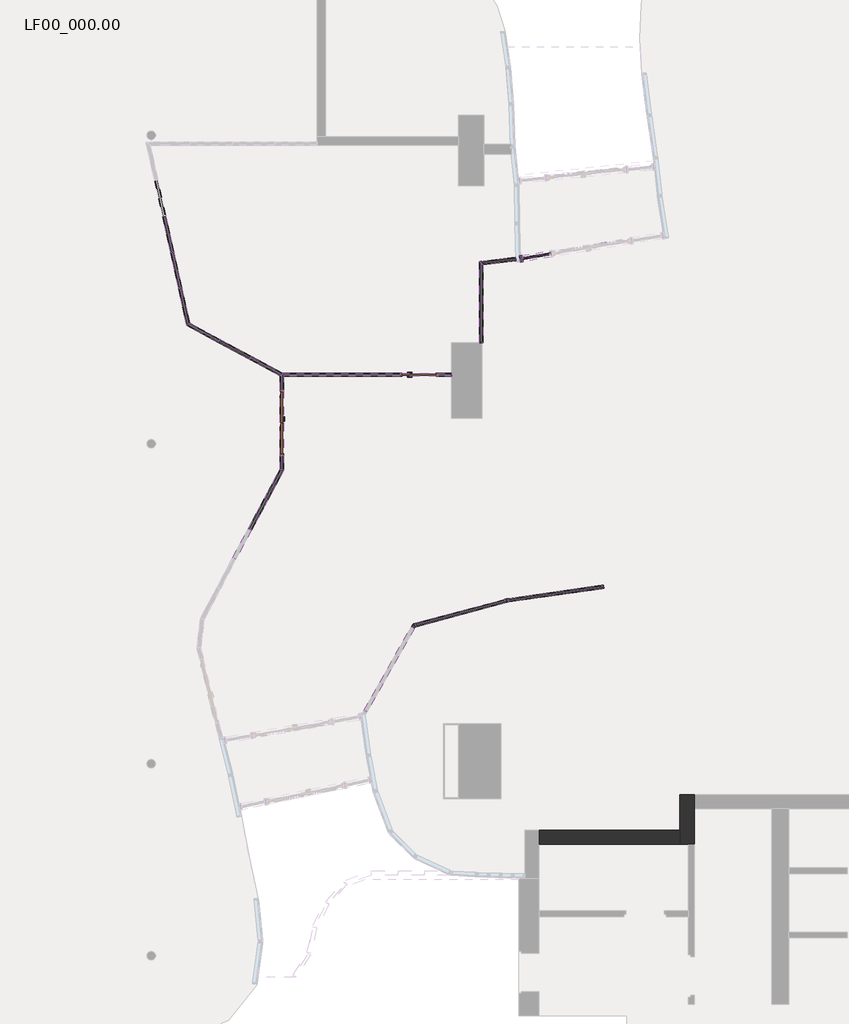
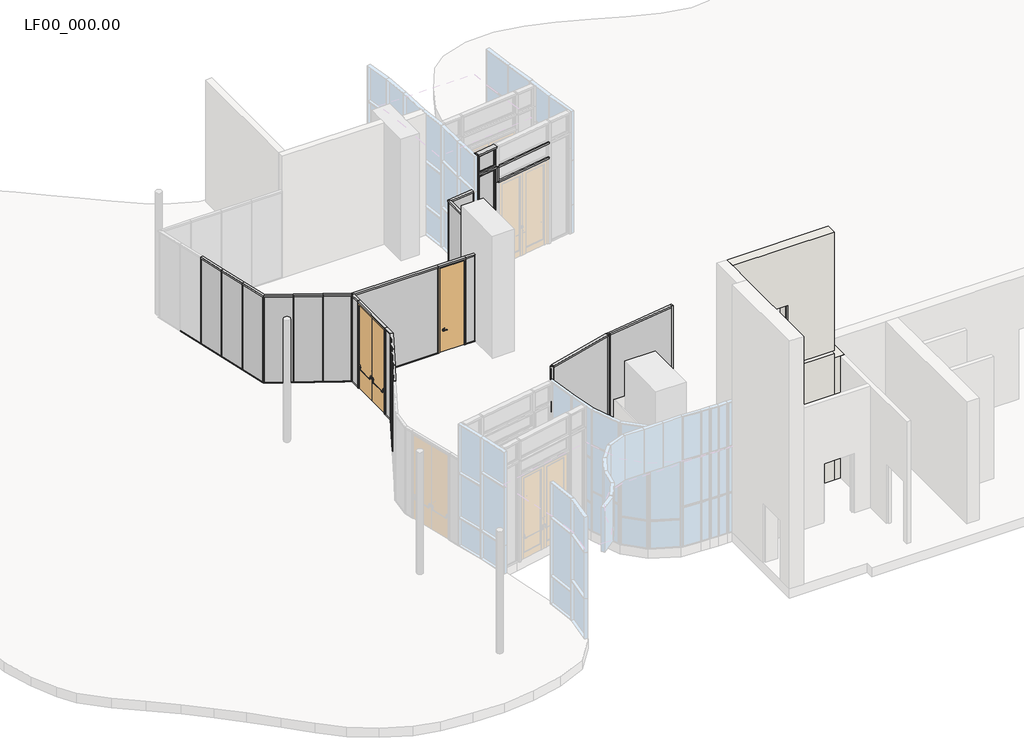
# One storey, part 3 of 8: 73 members, 18 plates, 2 doors, 2 walls.
"""IFC4 building model written with IfcOpenShell, lengths in millimetres."""

from ifc_helpers import new_model, si_unit, origin, place, context, project, spatial, faceted_brep, transform, mapped, element, save
from components import ve_090_8462b8ca, ve_154_32acc332, montante_rettangolare_ac_025x025_ae409ff8, montante_rettangolare_ac_025x025_25a4d1a1, montante_rettangolare_ac_025x025_28f09506, montante_rettangolare_ac_025x025_21ed5f5e, montante_rettangolare_ac_025x025_512be482, montante_rettangolare_ac_025x025_b97b00cb, montante_rettangolare_ac_025x025_81f427b6, montante_rettangolare_ac_080x010_f14e0e64, montante_rettangolare_ac_080x010_85614832, montante_rettangolare_ac_080x020_12e86903, montante_rettangolare_ac_080x020_a6ec7df7, montante_rettangolare_ac_080x020_8fa086c5, montante_rettangolare_ac_080x020_745d10ed, montante_rettangolare_ac_080x020_d0b7e222, montante_rettangolare_ac_080x020_5f120261, montante_rettangolare_ac_080x020_4c6ad7e7, montante_rettangolare_ac_080x020_a7b9e2be, montante_rettangolare_ac_080x020_05316a25, montante_rettangolare_ac_080x020_d9112aa1, montante_rettangolare_ac_080x020_15081c37, montante_rettangolare_ac_080x050_b03c8246, montante_rettangolare_ac_080x050_9ed485d2, montante_rettangolare_ac_080x050_85a4022c, montante_rettangolare_ac_080x050_10f1333b, montante_rettangolare_ac_080x050_9d1dc2e1, montante_rettangolare_ac_080x050_40be3790, montante_rettangolare_ac_080x050_a195ecd1, montante_rettangolare_ac_080x050_321416b7, montante_rettangolare_ac_080x050_0467c740, montante_rettangolare_ac_080x050_62b3c33c, montante_rettangolare_ac_080x050_1daf8e61, montante_rettangolare_ac_080x050_248bea0a, montante_rettangolare_ac_080x050_8d010b6c, montante_rettangolare_ac_080x050_8287f4ca, montante_rettangolare_ac_080x050_6629c8e8, montante_rettangolare_ac_080x050_642f358e, montante_rettangolare_ac_080x050_439e9399, montante_rettangolare_ac_080x050_106e0a45, montante_rettangolare_ac_080x050_b51b2937, al_005_92a386ba, ve3_036_db4ad411, ve3_036_47e47b8d, ve3_036_760cb13e, ve3_036_85d96793, ve3_036_0f583615, ve3_036_fc92c171, ve3_036_8ff04e8b, ve3_036_5b222622, ve3_036_d15efc4c, ve3_036_89044f45, ve3_036_f7bfa5f0, ve3_036_6c72086a, ve3_036_8a0f5401, ve_005_3c51ae4a

model = new_model("IFC4")

# Units and contexts
model_context = context("Model", 3, world=origin())
ifc_project = project(units=[si_unit("LENGTHUNIT", "METRE", prefix="MILLI")], contexts=[model_context])

# Site, building, storey
site = spatial("IfcSite", under=ifc_project)
building = spatial("IfcBuilding", under=site)
storey = spatial("IfcBuildingStorey", under=building, Name="LF00_000.00", Elevation=0.0)

# Doors
placement = place(None, origin())
ve_090_shape = ve_090_8462b8ca(model_context)
element("IfcDoor", 1, ObjectType="TRP_CP_ARC_PO_1B_PV : VE_090", at=placement, inside=storey, context=model_context, shape_type="MappedRepresentation", body=[
    mapped(ve_090_shape, transform((-87746.1459231, 11931.1366691, 0.0), x_axis=(-1.0, 0.0, 0.0), y_axis=(0.0, -1.0, 0.0), z_axis=(0.0, 0.0, 1.0))),
])
ve_154_shape = ve_154_32acc332(model_context)
element("IfcDoor", 2, ObjectType="TRP_CP_ARC_PO_2B_RE : VE_154", at=placement, inside=storey, context=model_context, shape_type="MappedRepresentation", body=[
    mapped(ve_154_shape, transform((-90961.1459231, 10796.1366691, 0.0), x_axis=(0.0, 1.0, 0.0), y_axis=(-1.0, 0.0, 0.0), z_axis=(0.0, 0.0, 1.0))),
])

# Members
montante_rettangolare_ac_025x025_shape = montante_rettangolare_ac_025x025_ae409ff8(model_context)
element("IfcMember", 3, ObjectType="Montante rettangolare : AC_025x025", at=placement, inside=storey, context=model_context, shape_type="MappedRepresentation", body=[
    mapped(montante_rettangolare_ac_025x025_shape, transform((-85375.4635346, 14647.4483094, 3500.0), x_axis=(-0.9868814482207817, -0.1614466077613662, 0.0), y_axis=(-0.1614466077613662, 0.9868814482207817, 0.0), z_axis=(0.0, 0.0, -1.0))),
])
montante_rettangolare_ac_025x025_2_shape = montante_rettangolare_ac_025x025_25a4d1a1(model_context)
element("IfcMember", 4, ObjectType="Montante rettangolare : AC_025x025", at=placement, inside=storey, context=model_context, shape_type="MappedRepresentation", body=[
    mapped(montante_rettangolare_ac_025x025_2_shape, transform((-84618.032023, 14771.3585809, 3500.0), x_axis=(0.0, 0.0, 1.0), y_axis=(-0.1614466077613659, 0.9868814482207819, 0.0), z_axis=(-0.9868814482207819, -0.1614466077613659, 0.0))),
])
montante_rettangolare_ac_025x025_3_shape = montante_rettangolare_ac_025x025_28f09506(model_context)
element("IfcMember", 5, ObjectType="Montante rettangolare : AC_025x025", at=placement, inside=storey, context=model_context, shape_type="MappedRepresentation", body=[
    mapped(montante_rettangolare_ac_025x025_3_shape, transform((-84618.032023, 14771.3585809, 2962.0), x_axis=(0.0, 0.0, 1.0), y_axis=(-0.1614466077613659, 0.9868814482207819, 0.0), z_axis=(-0.9868814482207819, -0.1614466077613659, 0.0))),
])
montante_rettangolare_ac_025x025_4_shape = montante_rettangolare_ac_025x025_21ed5f5e(model_context)
element("IfcMember", 6, ObjectType="Montante rettangolare : AC_025x025", at=placement, inside=storey, context=model_context, shape_type="MappedRepresentation", body=[
    mapped(montante_rettangolare_ac_025x025_4_shape, transform((-85375.4635346, 14647.4483094, 2962.0), x_axis=(-0.9868814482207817, -0.1614466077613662, 0.0), y_axis=(-0.1614466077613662, 0.9868814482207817, 0.0), z_axis=(0.0, 0.0, -1.0))),
])
montante_rettangolare_ac_025x025_5_shape = montante_rettangolare_ac_025x025_512be482(model_context)
element("IfcMember", 7, ObjectType="Montante rettangolare : AC_025x025", at=placement, inside=storey, context=model_context, shape_type="MappedRepresentation", body=[
    mapped(montante_rettangolare_ac_025x025_5_shape, transform((-84642.7040592, 14767.3224157, 2962.0), x_axis=(-0.9868814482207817, -0.1614466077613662, 0.0), y_axis=(-0.1614466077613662, 0.9868814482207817, 0.0), z_axis=(0.0, 0.0, -1.0))),
])
montante_rettangolare_ac_025x025_6_shape = montante_rettangolare_ac_025x025_b97b00cb(model_context)
element("IfcMember", 8, ObjectType="Montante rettangolare : AC_025x025", at=placement, inside=storey, context=model_context, shape_type="MappedRepresentation", body=[
    mapped(montante_rettangolare_ac_025x025_6_shape, transform((-85375.4635346, 14647.4483094, 0.0), x_axis=(-0.9868814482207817, -0.1614466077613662, 0.0), y_axis=(-0.1614466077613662, 0.9868814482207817, 0.0), z_axis=(0.0, 0.0, -1.0))),
])
montante_rettangolare_ac_025x025_7_shape = montante_rettangolare_ac_025x025_81f427b6(model_context)
element("IfcMember", 9, ObjectType="Montante rettangolare : AC_025x025", at=placement, inside=storey, context=model_context, shape_type="MappedRepresentation", body=[
    mapped(montante_rettangolare_ac_025x025_7_shape, transform((-85326.1194621, 14655.5206398, 3500.0), x_axis=(0.0, 0.0, 1.0), y_axis=(-0.16144660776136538, 0.9868814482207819, 0.0), z_axis=(-0.9868814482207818, -0.16144660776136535, 0.0))),
])
element("IfcMember", 10, ObjectType="Montante rettangolare : AC_025x025", at=placement, inside=storey, context=model_context, shape_type="MappedRepresentation", body=[
    mapped(montante_rettangolare_ac_025x025_7_shape, transform((-85326.1194621, 14655.5206398, 4199.970898), x_axis=(0.0, 0.0, 1.0), y_axis=(-0.16144660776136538, 0.9868814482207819, 0.0), z_axis=(-0.9868814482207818, -0.16144660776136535, 0.0))),
])
montante_rettangolare_ac_080x010_shape = montante_rettangolare_ac_080x010_f14e0e64(model_context)
element("IfcMember", 11, ObjectType="Montante rettangolare : AC_080x010", at=placement, inside=storey, context=model_context, shape_type="MappedRepresentation", body=[
    mapped(montante_rettangolare_ac_080x010_shape, transform((-91706.3991239, 8317.9397459, 20.0), x_axis=(0.47167924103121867, 0.8817702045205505, 0.0), y_axis=(0.8817702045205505, -0.47167924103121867, 0.0), z_axis=(0.0, 0.0, -1.0))),
])
element("IfcMember", 12, ObjectType="Montante rettangolare : AC_080x010", at=placement, inside=storey, context=model_context, shape_type="MappedRepresentation", body=[
    mapped(montante_rettangolare_ac_080x010_shape, transform((-91333.7725235, 9014.5382075, 20.0), x_axis=(0.47167924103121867, 0.8817702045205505, 0.0), y_axis=(0.8817702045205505, -0.47167924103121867, 0.0), z_axis=(0.0, 0.0, -1.0))),
])
element("IfcMember", 13, ObjectType="Montante rettangolare : AC_080x010", at=placement, inside=storey, context=model_context, shape_type="MappedRepresentation", body=[
    mapped(montante_rettangolare_ac_080x010_shape, transform((-90961.1459231, 10031.1366691, 20.0), x_axis=(0.0, 1.0, 0.0), y_axis=(1.0, 0.0, 0.0), z_axis=(0.0, 0.0, -1.0))),
])
element("IfcMember", 14, ObjectType="Montante rettangolare : AC_080x010", at=placement, inside=storey, context=model_context, shape_type="MappedRepresentation", body=[
    mapped(montante_rettangolare_ac_080x010_shape, transform((-90961.1459231, 11571.1366691, 20.0), x_axis=(0.0, 1.0, 0.0), y_axis=(1.0, 0.0, 0.0), z_axis=(0.0, 0.0, -1.0))),
])
element("IfcMember", 15, ObjectType="Montante rettangolare : AC_080x010", at=placement, inside=storey, context=model_context, shape_type="MappedRepresentation", body=[
    mapped(montante_rettangolare_ac_080x010_shape, transform((-88191.1459231, 11931.1366691, 20.0), x_axis=(1.0, 0.0, 0.0), y_axis=(0.0, -1.0, 0.0), z_axis=(0.0, 0.0, -1.0))),
])
element("IfcMember", 16, ObjectType="Montante rettangolare : AC_080x010", at=placement, inside=storey, context=model_context, shape_type="MappedRepresentation", body=[
    mapped(montante_rettangolare_ac_080x010_shape, transform((-87291.1459231, 11931.1366691, 20.0), x_axis=(1.0, 0.0, 0.0), y_axis=(0.0, -1.0, 0.0), z_axis=(0.0, 0.0, -1.0))),
])
element("IfcMember", 17, ObjectType="Montante rettangolare : AC_080x010", at=placement, inside=storey, context=model_context, shape_type="MappedRepresentation", body=[
    mapped(montante_rettangolare_ac_080x010_shape, transform((-92429.171309, 12722.8862451, 20.0), x_axis=(-0.8801519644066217, 0.47469202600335, 0.0), y_axis=(0.47469202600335, 0.8801519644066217, 0.0), z_axis=(0.0, 0.0, -1.0))),
])
element("IfcMember", 18, ObjectType="Montante rettangolare : AC_080x010", at=placement, inside=storey, context=model_context, shape_type="MappedRepresentation", body=[
    mapped(montante_rettangolare_ac_080x010_shape, transform((-91698.6451786, 12328.8918635, 20.0), x_axis=(-0.8801519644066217, 0.47469202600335, 0.0), y_axis=(0.47469202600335, 0.8801519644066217, 0.0), z_axis=(0.0, 0.0, -1.0))),
])
element("IfcMember", 19, ObjectType="Montante rettangolare : AC_080x010", at=placement, inside=storey, context=model_context, shape_type="MappedRepresentation", body=[
    mapped(montante_rettangolare_ac_080x010_shape, transform((-93347.7633033, 13962.2132422, 20.0), x_axis=(-0.217166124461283, 0.9761346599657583, 0.0), y_axis=(0.9761346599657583, 0.217166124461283, 0.0), z_axis=(0.0, 0.0, -1.0))),
])
element("IfcMember", 20, ObjectType="Montante rettangolare : AC_080x010", at=placement, inside=storey, context=model_context, shape_type="MappedRepresentation", body=[
    mapped(montante_rettangolare_ac_080x010_shape, transform((-93535.829167, 14807.5458578, 20.0), x_axis=(-0.217166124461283, 0.9761346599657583, 0.0), y_axis=(0.9761346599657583, 0.217166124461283, 0.0), z_axis=(0.0, 0.0, -1.0))),
])
element("IfcMember", 21, ObjectType="Montante rettangolare : AC_080x010", at=placement, inside=storey, context=model_context, shape_type="MappedRepresentation", body=[
    mapped(montante_rettangolare_ac_080x010_shape, transform((-93723.8950308, 15652.8784733, 20.0), x_axis=(-0.217166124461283, 0.9761346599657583, 0.0), y_axis=(0.9761346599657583, 0.217166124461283, 0.0), z_axis=(0.0, 0.0, -1.0))),
])
element("IfcMember", 22, ObjectType="Montante rettangolare : AC_080x010", at=placement, inside=storey, context=model_context, shape_type="MappedRepresentation", body=[
    mapped(montante_rettangolare_ac_080x010_shape, transform((-90961.1459231, 9711.1366691, 20.0), x_axis=(0.47167924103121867, 0.8817702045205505, 0.0), y_axis=(0.8817702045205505, -0.47167924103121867, 0.0), z_axis=(0.0, 0.0, -1.0))),
])
element("IfcMember", 23, ObjectType="Montante rettangolare : AC_080x010", at=placement, inside=storey, context=model_context, shape_type="MappedRepresentation", body=[
    mapped(montante_rettangolare_ac_080x010_shape, transform((-90961.1459231, 11931.1366691, 20.0), x_axis=(0.0, 1.0, 0.0), y_axis=(1.0, 0.0, 0.0), z_axis=(0.0, 0.0, -1.0))),
])
element("IfcMember", 24, ObjectType="Montante rettangolare : AC_080x010", at=placement, inside=storey, context=model_context, shape_type="MappedRepresentation", body=[
    mapped(montante_rettangolare_ac_080x010_shape, transform((-86991.1459231, 11931.1366691, 20.0), x_axis=(1.0, 0.0, 0.0), y_axis=(0.0, -1.0, 0.0), z_axis=(0.0, 0.0, -1.0))),
])
element("IfcMember", 25, ObjectType="Montante rettangolare : AC_080x010", at=placement, inside=storey, context=model_context, shape_type="MappedRepresentation", body=[
    mapped(montante_rettangolare_ac_080x010_shape, transform((-93159.6974395, 13116.8806267, 20.0), x_axis=(-0.8801519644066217, 0.47469202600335, 0.0), y_axis=(0.47469202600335, 0.8801519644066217, 0.0), z_axis=(0.0, 0.0, -1.0))),
])
element("IfcMember", 26, ObjectType="Montante rettangolare : AC_080x010", at=placement, inside=storey, context=model_context, shape_type="MappedRepresentation", body=[
    mapped(montante_rettangolare_ac_080x010_shape, transform((-86286.1459231, 12679.4443829, 20.0), x_axis=(0.0, -1.0, 0.0), y_axis=(-1.0, 0.0, 0.0), z_axis=(0.0, 0.0, -1.0))),
])
element("IfcMember", 27, ObjectType="Montante rettangolare : AC_080x010", at=placement, inside=storey, context=model_context, shape_type="MappedRepresentation", body=[
    mapped(montante_rettangolare_ac_080x010_shape, transform((-86286.1459231, 14549.4443829, 20.0), x_axis=(-0.9925461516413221, -0.12186934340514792, 0.0), y_axis=(-0.12186934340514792, 0.9925461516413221, 0.0), z_axis=(0.0, 0.0, -1.0))),
])
element("IfcMember", 28, ObjectType="Montante rettangolare : AC_080x010", at=placement, inside=storey, context=model_context, shape_type="MappedRepresentation", body=[
    mapped(montante_rettangolare_ac_080x010_shape, transform((-90961.1459231, 11931.1366691, 2950.0), x_axis=(-1.0, 0.0, 0.0), y_axis=(0.0, -1.0, 0.0), z_axis=(0.0, 0.0, 1.0))),
])
element("IfcMember", 29, ObjectType="Montante rettangolare : AC_080x010", at=placement, inside=storey, context=model_context, shape_type="MappedRepresentation", body=[
    mapped(montante_rettangolare_ac_080x010_shape, transform((-90961.1459231, 11931.1366691, 2950.0), x_axis=(0.8801519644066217, -0.47469202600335, 0.0), y_axis=(0.47469202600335, 0.8801519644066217, 0.0), z_axis=(0.0, 0.0, 1.0))),
])
element("IfcMember", 30, ObjectType="Montante rettangolare : AC_080x010", at=placement, inside=storey, context=model_context, shape_type="MappedRepresentation", body=[
    mapped(montante_rettangolare_ac_080x010_shape, transform((-93159.6974395, 13116.8806267, 2950.0), x_axis=(0.217166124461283, -0.9761346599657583, 0.0), y_axis=(0.9761346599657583, 0.217166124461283, 0.0), z_axis=(0.0, 0.0, 1.0))),
])
element("IfcMember", 31, ObjectType="Montante rettangolare : AC_080x010", at=placement, inside=storey, context=model_context, shape_type="MappedRepresentation", body=[
    mapped(montante_rettangolare_ac_080x010_shape, transform((-86286.1459231, 14549.4443829, 2950.0), x_axis=(0.0, 1.0, 0.0), y_axis=(-1.0, 0.0, 0.0), z_axis=(0.0, 0.0, 1.0))),
])
element("IfcMember", 32, ObjectType="Montante rettangolare : AC_080x010", at=placement, inside=storey, context=model_context, shape_type="MappedRepresentation", body=[
    mapped(montante_rettangolare_ac_080x010_shape, transform((-85475.5315143, 14648.9753172, 2950.0), x_axis=(0.9925461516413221, 0.12186934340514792, 0.0), y_axis=(-0.12186934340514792, 0.9925461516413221, 0.0), z_axis=(0.0, 0.0, 1.0))),
])
montante_rettangolare_ac_080x010_2_shape = montante_rettangolare_ac_080x010_85614832(model_context)
element("IfcMember", 33, ObjectType="Montante rettangolare : AC_080x010", at=placement, inside=storey, context=model_context, shape_type="MappedRepresentation", body=[
    mapped(montante_rettangolare_ac_080x010_2_shape, transform((-90961.1459231, 9711.1366691, 2950.0), x_axis=(0.0, -1.0, 0.0), y_axis=(1.0, 0.0, 0.0), z_axis=(0.0, 0.0, 1.0))),
])
montante_rettangolare_ac_080x020_shape = montante_rettangolare_ac_080x020_12e86903(model_context)
element("IfcMember", 34, ObjectType="Montante rettangolare : AC_080x020", at=placement, inside=storey, context=model_context, shape_type="MappedRepresentation", body=[
    mapped(montante_rettangolare_ac_080x020_shape, transform((-92429.171309, 12722.8862451, 0.0), x_axis=(0.0, 0.0, -1.0), y_axis=(0.4746920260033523, 0.8801519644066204, 0.0), z_axis=(0.8801519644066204, -0.4746920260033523, 0.0))),
])
montante_rettangolare_ac_080x020_2_shape = montante_rettangolare_ac_080x020_a6ec7df7(model_context)
element("IfcMember", 35, ObjectType="Montante rettangolare : AC_080x020", at=placement, inside=storey, context=model_context, shape_type="MappedRepresentation", body=[
    mapped(montante_rettangolare_ac_080x020_2_shape, transform((-85475.5315143, 14648.9753172, 0.0), x_axis=(0.0, 0.0, -1.0), y_axis=(-0.12186934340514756, 0.992546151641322, 0.0), z_axis=(0.992546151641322, 0.12186934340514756, 0.0))),
])
montante_rettangolare_ac_080x020_3_shape = montante_rettangolare_ac_080x020_8fa086c5(model_context)
element("IfcMember", 36, ObjectType="Montante rettangolare : AC_080x020", at=placement, inside=storey, context=model_context, shape_type="MappedRepresentation", body=[
    mapped(montante_rettangolare_ac_080x020_3_shape, transform((-91706.3991239, 8317.9397459, 0.0), x_axis=(0.0, 0.0, -1.0), y_axis=(0.8817702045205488, -0.47167924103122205, 0.0), z_axis=(-0.471679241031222, -0.8817702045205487, 0.0))),
])
montante_rettangolare_ac_080x020_4_shape = montante_rettangolare_ac_080x020_745d10ed(model_context)
element("IfcMember", 37, ObjectType="Montante rettangolare : AC_080x020", at=placement, inside=storey, context=model_context, shape_type="MappedRepresentation", body=[
    mapped(montante_rettangolare_ac_080x020_4_shape, transform((-90961.1459231, 11561.1366691, 0.0), x_axis=(0.0, 0.0, -1.0), y_axis=(1.0, 0.0, 0.0), z_axis=(0.0, -1.0, 0.0))),
])
element("IfcMember", 38, ObjectType="Montante rettangolare : AC_080x020", at=placement, inside=storey, context=model_context, shape_type="MappedRepresentation", body=[
    mapped(montante_rettangolare_ac_080x020_3_shape, transform((-91333.7725235, 9014.5382075, 0.0), x_axis=(0.0, 0.0, -1.0), y_axis=(0.8817702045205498, -0.47167924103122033, 0.0), z_axis=(-0.47167924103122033, -0.8817702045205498, 0.0))),
])
montante_rettangolare_ac_080x020_5_shape = montante_rettangolare_ac_080x020_d0b7e222(model_context)
element("IfcMember", 39, ObjectType="Montante rettangolare : AC_080x020", at=placement, inside=storey, context=model_context, shape_type="MappedRepresentation", body=[
    mapped(montante_rettangolare_ac_080x020_5_shape, transform((-90961.1459231, 9721.1366691, 0.0), x_axis=(0.0, 0.0, -1.0), y_axis=(1.0, 0.0, 0.0), z_axis=(0.0, -1.0, 0.0))),
])
element("IfcMember", 40, ObjectType="Montante rettangolare : AC_080x020", at=placement, inside=storey, context=model_context, shape_type="MappedRepresentation", body=[
    mapped(montante_rettangolare_ac_080x020_5_shape, transform((-87301.1459231, 11931.1366691, 0.0), x_axis=(0.0, 0.0, -1.0), y_axis=(0.0, -1.0, 0.0), z_axis=(-1.0, 0.0, 0.0))),
])
montante_rettangolare_ac_080x020_6_shape = montante_rettangolare_ac_080x020_5f120261(model_context)
element("IfcMember", 41, ObjectType="Montante rettangolare : AC_080x020", at=placement, inside=storey, context=model_context, shape_type="MappedRepresentation", body=[
    mapped(montante_rettangolare_ac_080x020_6_shape, transform((-90961.1459231, 11931.1366691, 0.0), x_axis=(0.0, 0.0, -1.0), y_axis=(0.0, -1.0, 0.0), z_axis=(-1.0, 0.0, 0.0))),
])
montante_rettangolare_ac_080x020_7_shape = montante_rettangolare_ac_080x020_4c6ad7e7(model_context)
element("IfcMember", 42, ObjectType="Montante rettangolare : AC_080x020", at=placement, inside=storey, context=model_context, shape_type="MappedRepresentation", body=[
    mapped(montante_rettangolare_ac_080x020_7_shape, transform((-90961.1459231, 11931.1366691, 0.0), x_axis=(0.0, 0.0, -1.0), y_axis=(0.47469202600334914, 0.8801519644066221, 0.0), z_axis=(0.8801519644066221, -0.47469202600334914, 0.0))),
])
montante_rettangolare_ac_080x020_8_shape = montante_rettangolare_ac_080x020_a7b9e2be(model_context)
element("IfcMember", 43, ObjectType="Montante rettangolare : AC_080x020", at=placement, inside=storey, context=model_context, shape_type="MappedRepresentation", body=[
    mapped(montante_rettangolare_ac_080x020_8_shape, transform((-91698.6451786, 12328.8918635, 0.0), x_axis=(0.0, 0.0, -1.0), y_axis=(0.47469202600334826, 0.8801519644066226, 0.0), z_axis=(0.8801519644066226, -0.47469202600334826, 0.0))),
])
montante_rettangolare_ac_080x020_9_shape = montante_rettangolare_ac_080x020_05316a25(model_context)
element("IfcMember", 44, ObjectType="Montante rettangolare : AC_080x020", at=placement, inside=storey, context=model_context, shape_type="MappedRepresentation", body=[
    mapped(montante_rettangolare_ac_080x020_9_shape, transform((-93159.6974395, 13116.8806267, 0.0), x_axis=(0.0, 0.0, -1.0), y_axis=(0.9761346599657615, 0.21716612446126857, 0.0), z_axis=(0.21716612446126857, -0.9761346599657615, 0.0))),
])
montante_rettangolare_ac_080x020_10_shape = montante_rettangolare_ac_080x020_d9112aa1(model_context)
element("IfcMember", 45, ObjectType="Montante rettangolare : AC_080x020", at=placement, inside=storey, context=model_context, shape_type="MappedRepresentation", body=[
    mapped(montante_rettangolare_ac_080x020_10_shape, transform((-93347.7633033, 13962.2132422, 0.0), x_axis=(0.0, 0.0, -1.0), y_axis=(0.9761346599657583, 0.21716612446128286, 0.0), z_axis=(0.21716612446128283, -0.9761346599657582, 0.0))),
])
element("IfcMember", 46, ObjectType="Montante rettangolare : AC_080x020", at=placement, inside=storey, context=model_context, shape_type="MappedRepresentation", body=[
    mapped(montante_rettangolare_ac_080x020_10_shape, transform((-93535.829167, 14807.5458578, 0.0), x_axis=(0.0, 0.0, -1.0), y_axis=(0.9761346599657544, 0.21716612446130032, 0.0), z_axis=(0.21716612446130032, -0.9761346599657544, 0.0))),
])
element("IfcMember", 47, ObjectType="Montante rettangolare : AC_080x020", at=placement, inside=storey, context=model_context, shape_type="MappedRepresentation", body=[
    mapped(montante_rettangolare_ac_080x020_10_shape, transform((-93723.8950308, 15652.8784733, 0.0), x_axis=(0.0, 0.0, -1.0), y_axis=(0.9761346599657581, 0.21716612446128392, 0.0), z_axis=(0.2171661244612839, -0.976134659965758, 0.0))),
])
montante_rettangolare_ac_080x020_11_shape = montante_rettangolare_ac_080x020_15081c37(model_context)
element("IfcMember", 48, ObjectType="Montante rettangolare : AC_080x020", at=placement, inside=storey, context=model_context, shape_type="MappedRepresentation", body=[
    mapped(montante_rettangolare_ac_080x020_11_shape, transform((-86286.1459231, 14549.4443829, 0.0), x_axis=(0.0, 0.0, -1.0), y_axis=(-1.0, 0.0, 0.0), z_axis=(0.0, 1.0, 0.0))),
])
montante_rettangolare_ac_080x050_shape = montante_rettangolare_ac_080x050_b03c8246(model_context)
element("IfcMember", 49, ObjectType="Montante rettangolare : AC_080x050", at=placement, inside=storey, context=model_context, shape_type="MappedRepresentation", body=[
    mapped(montante_rettangolare_ac_080x050_shape, transform((-86286.1459231, 14549.4443829, 3000.0), x_axis=(0.0, 0.0, 1.0), y_axis=(-0.12186934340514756, 0.992546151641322, 0.0), z_axis=(-0.992546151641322, -0.12186934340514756, 0.0))),
])
montante_rettangolare_ac_080x050_2_shape = montante_rettangolare_ac_080x050_9ed485d2(model_context)
element("IfcMember", 50, ObjectType="Montante rettangolare : AC_080x050", at=placement, inside=storey, context=model_context, shape_type="MappedRepresentation", body=[
    mapped(montante_rettangolare_ac_080x050_2_shape, transform((-88191.1459231, 11931.1366691, 3000.0), x_axis=(0.0, 0.0, 1.0), y_axis=(0.0, -1.0, 0.0), z_axis=(1.0, 0.0, 0.0))),
])
montante_rettangolare_ac_080x050_3_shape = montante_rettangolare_ac_080x050_85a4022c(model_context)
element("IfcMember", 51, ObjectType="Montante rettangolare : AC_080x050", at=placement, inside=storey, context=model_context, shape_type="MappedRepresentation", body=[
    mapped(montante_rettangolare_ac_080x050_3_shape, transform((-83462.622829, 6957.2337892, 3000.0), x_axis=(0.0, 0.0, 1.0), y_axis=(0.14145429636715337, -0.9899447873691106, 0.0), z_axis=(0.9899447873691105, 0.14145429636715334, 0.0))),
])
element("IfcMember", 52, ObjectType="Montante rettangolare : AC_080x050", at=placement, inside=storey, context=model_context, shape_type="MappedRepresentation", body=[
    mapped(montante_rettangolare_ac_080x050_3_shape, transform((-85640.5013612, 6646.0343372, 0.0), x_axis=(0.0, 0.0, -1.0), y_axis=(0.14145429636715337, -0.9899447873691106, 0.0), z_axis=(-0.9899447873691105, -0.14145429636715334, 0.0))),
])
montante_rettangolare_ac_080x050_4_shape = montante_rettangolare_ac_080x050_10f1333b(model_context)
element("IfcMember", 53, ObjectType="Montante rettangolare : AC_080x050", at=placement, inside=storey, context=model_context, shape_type="MappedRepresentation", body=[
    mapped(montante_rettangolare_ac_080x050_4_shape, transform((-87892.253496, 6011.4272045, 3000.0), x_axis=(0.0, 0.0, 1.0), y_axis=(0.8710132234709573, -0.49125956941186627, 0.0), z_axis=(0.49125956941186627, 0.8710132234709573, 0.0))),
])
montante_rettangolare_ac_080x050_5_shape = montante_rettangolare_ac_080x050_9d1dc2e1(model_context)
element("IfcMember", 54, ObjectType="Montante rettangolare : AC_080x050", at=placement, inside=storey, context=model_context, shape_type="MappedRepresentation", body=[
    mapped(montante_rettangolare_ac_080x050_5_shape, transform((-85738.2922687, 6626.0108842, 3000.0), x_axis=(0.0, 0.0, 1.0), y_axis=(0.25901476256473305, -0.965873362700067, 0.0), z_axis=(0.965873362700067, 0.25901476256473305, 0.0))),
])
element("IfcMember", 55, ObjectType="Montante rettangolare : AC_080x050", at=placement, inside=storey, context=model_context, shape_type="MappedRepresentation", body=[
    mapped(montante_rettangolare_ac_080x050_5_shape, transform((-87819.3968494, 6067.9286038, 0.0), x_axis=(0.0, 0.0, -1.0), y_axis=(0.25901476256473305, -0.965873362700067, 0.0), z_axis=(-0.965873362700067, -0.25901476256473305, 0.0))),
])
montante_rettangolare_ac_080x050_6_shape = montante_rettangolare_ac_080x050_40be3790(model_context)
element("IfcMember", 56, ObjectType="Montante rettangolare : AC_080x050", at=placement, inside=storey, context=model_context, shape_type="MappedRepresentation", body=[
    mapped(montante_rettangolare_ac_080x050_6_shape, transform((-83413.1255896, 6964.306504, 0.0), x_axis=(0.9899447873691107, 0.1414542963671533, 0.0), y_axis=(0.1414542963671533, -0.9899447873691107, 0.0), z_axis=(0.0, 0.0, -1.0))),
])
element("IfcMember", 57, ObjectType="Montante rettangolare : AC_080x050", at=placement, inside=storey, context=model_context, shape_type="MappedRepresentation", body=[
    mapped(montante_rettangolare_ac_080x050_6_shape, transform((-87867.6905175, 6054.9778657, 0.0), x_axis=(0.4912595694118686, 0.871013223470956, 0.0), y_axis=(0.871013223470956, -0.4912595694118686, 0.0), z_axis=(0.0, 0.0, -1.0))),
])
element("IfcMember", 58, ObjectType="Montante rettangolare : AC_080x050", at=placement, inside=storey, context=model_context, shape_type="MappedRepresentation", body=[
    mapped(montante_rettangolare_ac_080x050_6_shape, transform((-85689.9986006, 6638.9616223, 0.0), x_axis=(0.9658733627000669, 0.2590147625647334, 0.0), y_axis=(0.2590147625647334, -0.9658733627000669, 0.0), z_axis=(0.0, 0.0, -1.0))),
])
element("IfcMember", 59, ObjectType="Montante rettangolare : AC_080x050", at=placement, inside=storey, context=model_context, shape_type="MappedRepresentation", body=[
    mapped(montante_rettangolare_ac_080x050_6_shape, transform((-85689.9986006, 6638.9616223, 3000.0), x_axis=(-0.9899447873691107, -0.1414542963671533, 0.0), y_axis=(0.1414542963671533, -0.9899447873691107, 0.0), z_axis=(0.0, 0.0, 1.0))),
])
element("IfcMember", 60, ObjectType="Montante rettangolare : AC_080x050", at=placement, inside=storey, context=model_context, shape_type="MappedRepresentation", body=[
    mapped(montante_rettangolare_ac_080x050_6_shape, transform((-87867.6905175, 6054.9778657, 3000.0), x_axis=(-0.9658733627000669, -0.2590147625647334, 0.0), y_axis=(0.2590147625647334, -0.9658733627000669, 0.0), z_axis=(0.0, 0.0, 1.0))),
])
montante_rettangolare_ac_080x050_7_shape = montante_rettangolare_ac_080x050_a195ecd1(model_context)
element("IfcMember", 61, ObjectType="Montante rettangolare : AC_080x050", at=placement, inside=storey, context=model_context, shape_type="MappedRepresentation", body=[
    mapped(montante_rettangolare_ac_080x050_7_shape, transform((-90961.1459231, 11571.1366691, 3000.0), x_axis=(0.0, 0.0, 1.0), y_axis=(1.0, 0.0, 0.0), z_axis=(0.0, 1.0, 0.0))),
])
montante_rettangolare_ac_080x050_8_shape = montante_rettangolare_ac_080x050_321416b7(model_context)
element("IfcMember", 62, ObjectType="Montante rettangolare : AC_080x050", at=placement, inside=storey, context=model_context, shape_type="MappedRepresentation", body=[
    mapped(montante_rettangolare_ac_080x050_8_shape, transform((-91333.7725235, 9014.5382075, 3000.0), x_axis=(0.0, 0.0, 1.0), y_axis=(0.8817702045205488, -0.47167924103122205, 0.0), z_axis=(0.471679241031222, 0.8817702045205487, 0.0))),
])
element("IfcMember", 63, ObjectType="Montante rettangolare : AC_080x050", at=placement, inside=storey, context=model_context, shape_type="MappedRepresentation", body=[
    mapped(montante_rettangolare_ac_080x050_8_shape, transform((-91706.3991239, 8317.9397459, 3000.0), x_axis=(0.0, 0.0, 1.0), y_axis=(0.8817702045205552, -0.4716792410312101, 0.0), z_axis=(0.47167924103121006, 0.8817702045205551, 0.0))),
])
montante_rettangolare_ac_080x050_9_shape = montante_rettangolare_ac_080x050_0467c740(model_context)
element("IfcMember", 64, ObjectType="Montante rettangolare : AC_080x050", at=placement, inside=storey, context=model_context, shape_type="MappedRepresentation", body=[
    mapped(montante_rettangolare_ac_080x050_9_shape, transform((-90961.1459231, 11931.1366691, 3000.0), x_axis=(0.0, 0.0, 1.0), y_axis=(1.0, 0.0, 0.0), z_axis=(0.0, 1.0, 0.0))),
])
montante_rettangolare_ac_080x050_10_shape = montante_rettangolare_ac_080x050_62b3c33c(model_context)
element("IfcMember", 65, ObjectType="Montante rettangolare : AC_080x050", at=placement, inside=storey, context=model_context, shape_type="MappedRepresentation", body=[
    mapped(montante_rettangolare_ac_080x050_10_shape, transform((-90961.1459231, 10031.1366691, 3000.0), x_axis=(0.0, 0.0, 1.0), y_axis=(1.0, 0.0, 0.0), z_axis=(0.0, 1.0, 0.0))),
])
montante_rettangolare_ac_080x050_11_shape = montante_rettangolare_ac_080x050_1daf8e61(model_context)
element("IfcMember", 66, ObjectType="Montante rettangolare : AC_080x050", at=placement, inside=storey, context=model_context, shape_type="MappedRepresentation", body=[
    mapped(montante_rettangolare_ac_080x050_11_shape, transform((-90961.1459231, 9711.1366691, 3000.0), x_axis=(0.0, 0.0, 1.0), y_axis=(0.8817702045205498, -0.47167924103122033, 0.0), z_axis=(0.47167924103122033, 0.8817702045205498, 0.0))),
])
montante_rettangolare_ac_080x050_12_shape = montante_rettangolare_ac_080x050_248bea0a(model_context)
element("IfcMember", 67, ObjectType="Montante rettangolare : AC_080x050", at=placement, inside=storey, context=model_context, shape_type="MappedRepresentation", body=[
    mapped(montante_rettangolare_ac_080x050_12_shape, transform((-86991.1459231, 11931.1366691, 3000.0), x_axis=(0.0, 0.0, 1.0), y_axis=(0.0, -1.0, 0.0), z_axis=(1.0, 0.0, 0.0))),
])
montante_rettangolare_ac_080x050_13_shape = montante_rettangolare_ac_080x050_8d010b6c(model_context)
element("IfcMember", 68, ObjectType="Montante rettangolare : AC_080x050", at=placement, inside=storey, context=model_context, shape_type="MappedRepresentation", body=[
    mapped(montante_rettangolare_ac_080x050_13_shape, transform((-87291.1459231, 11931.1366691, 3000.0), x_axis=(0.0, 0.0, 1.0), y_axis=(0.0, -1.0, 0.0), z_axis=(1.0, 0.0, 0.0))),
])
montante_rettangolare_ac_080x050_14_shape = montante_rettangolare_ac_080x050_8287f4ca(model_context)
element("IfcMember", 69, ObjectType="Montante rettangolare : AC_080x050", at=placement, inside=storey, context=model_context, shape_type="MappedRepresentation", body=[
    mapped(montante_rettangolare_ac_080x050_14_shape, transform((-92429.171309, 12722.8862451, 3000.0), x_axis=(0.0, 0.0, 1.0), y_axis=(0.47469202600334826, 0.8801519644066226, 0.0), z_axis=(-0.8801519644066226, 0.47469202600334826, 0.0))),
])
montante_rettangolare_ac_080x050_15_shape = montante_rettangolare_ac_080x050_6629c8e8(model_context)
element("IfcMember", 70, ObjectType="Montante rettangolare : AC_080x050", at=placement, inside=storey, context=model_context, shape_type="MappedRepresentation", body=[
    mapped(montante_rettangolare_ac_080x050_15_shape, transform((-91698.6451786, 12328.8918635, 3000.0), x_axis=(0.0, 0.0, 1.0), y_axis=(0.47469202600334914, 0.8801519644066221, 0.0), z_axis=(-0.8801519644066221, 0.47469202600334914, 0.0))),
])
montante_rettangolare_ac_080x050_16_shape = montante_rettangolare_ac_080x050_642f358e(model_context)
element("IfcMember", 71, ObjectType="Montante rettangolare : AC_080x050", at=placement, inside=storey, context=model_context, shape_type="MappedRepresentation", body=[
    mapped(montante_rettangolare_ac_080x050_16_shape, transform((-93535.829167, 14807.5458578, 3000.0), x_axis=(0.0, 0.0, 1.0), y_axis=(0.9761346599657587, 0.2171661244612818, 0.0), z_axis=(-0.2171661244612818, 0.9761346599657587, 0.0))),
])
element("IfcMember", 72, ObjectType="Montante rettangolare : AC_080x050", at=placement, inside=storey, context=model_context, shape_type="MappedRepresentation", body=[
    mapped(montante_rettangolare_ac_080x050_16_shape, transform((-93723.8950308, 15652.8784733, 3000.0), x_axis=(0.0, 0.0, 1.0), y_axis=(0.9761346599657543, 0.21716612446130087, 0.0), z_axis=(-0.21716612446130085, 0.9761346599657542, 0.0))),
])
montante_rettangolare_ac_080x050_17_shape = montante_rettangolare_ac_080x050_439e9399(model_context)
element("IfcMember", 73, ObjectType="Montante rettangolare : AC_080x050", at=placement, inside=storey, context=model_context, shape_type="MappedRepresentation", body=[
    mapped(montante_rettangolare_ac_080x050_17_shape, transform((-93347.7633033, 13962.2132422, 3000.0), x_axis=(0.0, 0.0, 1.0), y_axis=(0.9761346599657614, 0.2171661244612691, 0.0), z_axis=(-0.21716612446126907, 0.9761346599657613, 0.0))),
])
montante_rettangolare_ac_080x050_18_shape = montante_rettangolare_ac_080x050_106e0a45(model_context)
element("IfcMember", 74, ObjectType="Montante rettangolare : AC_080x050", at=placement, inside=storey, context=model_context, shape_type="MappedRepresentation", body=[
    mapped(montante_rettangolare_ac_080x050_18_shape, transform((-93159.6974395, 13116.8806267, 3000.0), x_axis=(0.0, 0.0, 1.0), y_axis=(0.4746920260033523, 0.8801519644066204, 0.0), z_axis=(-0.8801519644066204, 0.4746920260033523, 0.0))),
])
montante_rettangolare_ac_080x050_19_shape = montante_rettangolare_ac_080x050_b51b2937(model_context)
element("IfcMember", 75, ObjectType="Montante rettangolare : AC_080x050", at=placement, inside=storey, context=model_context, shape_type="MappedRepresentation", body=[
    mapped(montante_rettangolare_ac_080x050_19_shape, transform((-86286.1459231, 12679.4443829, 3000.0), x_axis=(0.0, 0.0, 1.0), y_axis=(-1.0, 0.0, 0.0), z_axis=(0.0, -1.0, 0.0))),
])

# Plates
al_005_shape = al_005_92a386ba(model_context)
element("IfcPlate", 76, ObjectType="TRP_CP_ARC_PF_RE : AL_005", at=placement, inside=storey, context=model_context, shape_type="MappedRepresentation", body=[
    mapped(al_005_shape, transform((-84996.7477788, 14709.4034451, 3500.0), x_axis=(-0.9868814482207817, -0.1614466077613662, 0.0), y_axis=(0.1614466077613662, -0.9868814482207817, 0.0), z_axis=(0.0, 0.0, 1.0))),
])
ve3_036_shape = ve3_036_db4ad411(model_context)
element("IfcPlate", 77, ObjectType="TRP_CP_ARC_PF_RE_SE : VE3_036", at=placement, inside=storey, context=model_context, shape_type="MappedRepresentation", body=[
    mapped(ve3_036_shape, transform((-84551.5620951, 6801.6340632, 50.0), x_axis=(0.9899447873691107, 0.1414542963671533, 0.0), y_axis=(-0.1414542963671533, 0.9899447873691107, 0.0), z_axis=(0.0, 0.0, 1.0))),
])
ve3_036_2_shape = ve3_036_47e47b8d(model_context)
element("IfcPlate", 78, ObjectType="TRP_CP_ARC_PF_RE_SE : VE3_036", at=placement, inside=storey, context=model_context, shape_type="MappedRepresentation", body=[
    mapped(ve3_036_2_shape, transform((-86778.844559, 6346.969744, 50.0), x_axis=(0.9658733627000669, 0.2590147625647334, 0.0), y_axis=(-0.2590147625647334, 0.9658733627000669, 0.0), z_axis=(0.0, 0.0, 1.0))),
])
ve3_036_3_shape = ve3_036_760cb13e(model_context)
element("IfcPlate", 79, ObjectType="TRP_CP_ARC_PF_RE_SE : VE3_036", at=placement, inside=storey, context=model_context, shape_type="MappedRepresentation", body=[
    mapped(ve3_036_3_shape, transform((-90961.1459231, 11746.1366691, 20.0), x_axis=(0.0, 1.0, 0.0), y_axis=(-1.0, 0.0, 0.0), z_axis=(0.0, 0.0, 1.0))),
])
ve3_036_4_shape = ve3_036_85d96793(model_context)
element("IfcPlate", 80, ObjectType="TRP_CP_ARC_PF_RE_SE : VE3_036", at=placement, inside=storey, context=model_context, shape_type="MappedRepresentation", body=[
    mapped(ve3_036_4_shape, transform((-91522.4442199, 8661.8301257, 20.0), x_axis=(0.47167924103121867, 0.8817702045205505, 0.0), y_axis=(-0.8817702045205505, 0.47167924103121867, 0.0), z_axis=(0.0, 0.0, 1.0))),
])
element("IfcPlate", 81, ObjectType="TRP_CP_ARC_PF_RE_SE : VE3_036", at=placement, inside=storey, context=model_context, shape_type="MappedRepresentation", body=[
    mapped(ve3_036_4_shape, transform((-91149.8176195, 9358.4285873, 20.0), x_axis=(0.47167924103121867, 0.8817702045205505, 0.0), y_axis=(-0.8817702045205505, 0.47167924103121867, 0.0), z_axis=(0.0, 0.0, 1.0))),
])
ve3_036_5_shape = ve3_036_0f583615(model_context)
element("IfcPlate", 82, ObjectType="TRP_CP_ARC_PF_RE_SE : VE3_036", at=placement, inside=storey, context=model_context, shape_type="MappedRepresentation", body=[
    mapped(ve3_036_5_shape, transform((-90961.1459231, 9871.1366691, 20.0), x_axis=(0.0, 1.0, 0.0), y_axis=(-1.0, 0.0, 0.0), z_axis=(0.0, 0.0, 1.0))),
])
ve3_036_6_shape = ve3_036_fc92c171(model_context)
element("IfcPlate", 83, ObjectType="TRP_CP_ARC_PF_RE_SE : VE3_036", at=placement, inside=storey, context=model_context, shape_type="MappedRepresentation", body=[
    mapped(ve3_036_6_shape, transform((-89576.1459231, 11931.1366691, 20.0), x_axis=(1.0, 0.0, 0.0), y_axis=(0.0, 1.0, 0.0), z_axis=(0.0, 0.0, 1.0))),
])
ve3_036_7_shape = ve3_036_8ff04e8b(model_context)
element("IfcPlate", 84, ObjectType="TRP_CP_ARC_PF_RE_SE : VE3_036", at=placement, inside=storey, context=model_context, shape_type="MappedRepresentation", body=[
    mapped(ve3_036_7_shape, transform((-87146.1459231, 11931.1366691, 20.0), x_axis=(1.0, 0.0, 0.0), y_axis=(0.0, 1.0, 0.0), z_axis=(0.0, 0.0, 1.0))),
])
ve3_036_8_shape = ve3_036_5b222622(model_context)
element("IfcPlate", 85, ObjectType="TRP_CP_ARC_PF_RE_SE : VE3_036", at=placement, inside=storey, context=model_context, shape_type="MappedRepresentation", body=[
    mapped(ve3_036_8_shape, transform((-92790.0336144, 12917.5099758, 20.0), x_axis=(-0.8801519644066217, 0.47469202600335, 0.0), y_axis=(-0.47469202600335, -0.8801519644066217, 0.0), z_axis=(0.0, 0.0, 1.0))),
])
element("IfcPlate", 86, ObjectType="TRP_CP_ARC_PF_RE_SE : VE3_036", at=placement, inside=storey, context=model_context, shape_type="MappedRepresentation", body=[
    mapped(ve3_036_8_shape, transform((-92059.507484, 12523.5155942, 20.0), x_axis=(-0.8801519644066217, 0.47469202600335, 0.0), y_axis=(-0.47469202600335, -0.8801519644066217, 0.0), z_axis=(0.0, 0.0, 1.0))),
])
ve3_036_9_shape = ve3_036_d15efc4c(model_context)
element("IfcPlate", 87, ObjectType="TRP_CP_ARC_PF_RE_SE : VE3_036", at=placement, inside=storey, context=model_context, shape_type="MappedRepresentation", body=[
    mapped(ve3_036_9_shape, transform((-93253.7303714, 13539.5469345, 20.0), x_axis=(-0.217166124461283, 0.9761346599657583, 0.0), y_axis=(-0.9761346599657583, -0.217166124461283, 0.0), z_axis=(0.0, 0.0, 1.0))),
])
ve3_036_10_shape = ve3_036_89044f45(model_context)
element("IfcPlate", 88, ObjectType="TRP_CP_ARC_PF_RE_SE : VE3_036", at=placement, inside=storey, context=model_context, shape_type="MappedRepresentation", body=[
    mapped(ve3_036_10_shape, transform((-93628.7762683, 15225.3314922, 20.0), x_axis=(-0.217166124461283, 0.9761346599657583, 0.0), y_axis=(-0.9761346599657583, -0.217166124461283, 0.0), z_axis=(0.0, 0.0, 1.0))),
])
element("IfcPlate", 89, ObjectType="TRP_CP_ARC_PF_RE_SE : VE3_036", at=placement, inside=storey, context=model_context, shape_type="MappedRepresentation", body=[
    mapped(ve3_036_10_shape, transform((-93440.7104045, 14379.9988767, 20.0), x_axis=(-0.217166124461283, 0.9761346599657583, 0.0), y_axis=(-0.9761346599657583, -0.217166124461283, 0.0), z_axis=(0.0, 0.0, 1.0))),
])
ve3_036_11_shape = ve3_036_f7bfa5f0(model_context)
element("IfcPlate", 90, ObjectType="TRP_CP_ARC_PF_RE_SE : VE3_036", at=placement, inside=storey, context=model_context, shape_type="MappedRepresentation", body=[
    mapped(ve3_036_11_shape, transform((-86286.1459231, 13614.4443829, 20.0), x_axis=(0.0, -1.0, 0.0), y_axis=(1.0, 0.0, 0.0), z_axis=(0.0, 0.0, 1.0))),
])
ve3_036_12_shape = ve3_036_6c72086a(model_context)
element("IfcPlate", 91, ObjectType="TRP_CP_ARC_PF_RE_SE : VE3_036", at=placement, inside=storey, context=model_context, shape_type="MappedRepresentation", body=[
    mapped(ve3_036_12_shape, transform((-85880.8387187, 14599.20985, 20.0), x_axis=(-0.9925461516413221, -0.12186934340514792, 0.0), y_axis=(0.12186934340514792, -0.9925461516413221, 0.0), z_axis=(0.0, 0.0, 1.0))),
])
ve3_036_13_shape = ve3_036_8a0f5401(model_context)
element("IfcPlate", 92, ObjectType="TRP_CP_ARC_PF_RE_SE : VE3_036", at=placement, inside=storey, context=model_context, shape_type="MappedRepresentation", body=[
    mapped(ve3_036_13_shape, transform((-91329.8955508, 12130.0142663, 20.0), x_axis=(0.8801519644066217, -0.47469202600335, 0.0), y_axis=(0.47469202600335, 0.8801519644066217, 0.0), z_axis=(0.0, 0.0, 1.0))),
])
ve_005_shape = ve_005_3c51ae4a(model_context)
element("IfcPlate", 93, ObjectType="TRP_CP_ARC_PF_RE : VE_005", at=placement, inside=storey, context=model_context, shape_type="MappedRepresentation", body=[
    mapped(ve_005_shape, transform((-84996.7477788, 14709.4034451, 0.0), x_axis=(-0.9868814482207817, -0.1614466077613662, 0.0), y_axis=(0.1614466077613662, -0.9868814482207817, 0.0), z_axis=(0.0, 0.0, 1.0))),
])

# Walls
element("IfcWall", 94, ObjectType="T7", at=placement, inside=storey, context=model_context, shape_type="Brep", body=[
    faceted_brep([(-81624.6132945, 2093.401192, 0.0), (-81624.6132945, 1253.401192, 0.0), (-81624.6132945, 923.401192, 0.0), (-81624.6132945, 923.401192, 4200.0), (-81624.6132945, 2093.401192, 4200.0), (-81294.6132945, 2093.401192, 0.0), (-81294.6132945, 2093.401192, 4200.0), (-81294.6132945, 1763.401192, 4200.0), (-81294.6132945, 923.401192, 4200.0), (-81294.6132945, 923.401192, 0.0), (-81294.6132945, 1763.401192, 0.0), (-81429.6132945, 923.401192, 0.0), (-81429.6132945, 923.401192, 4200.0)], [[[0, 1, 2, 3, 4]], [[5, 6, 7, 8, 9, 10]], [[2, 1, 0, 5, 10, 9, 11]], [[4, 3, 12, 8, 7, 6]], [[0, 4, 6, 5]], [[3, 2, 11, 9, 8, 12]]]),
])
element("IfcWall", 95, ObjectType="T7", at=placement, inside=storey, context=model_context, shape_type="Brep", body=[
    faceted_brep([(-84938.6351, 923.401192, 0.0), (-81624.6132945, 923.401192, 0.0), (-81624.6132945, 923.401192, 4200.0), (-81624.6132945, 923.401192, 4361.0), (-84938.6351, 923.401192, 4361.0), (-81624.6132945, 1253.401192, 0.0), (-84938.6351, 1253.401192, 0.0), (-84938.6351, 1253.401192, 4361.0), (-81624.6132945, 1253.401192, 4361.0), (-81624.6132945, 1253.401192, 4200.0)], [[[0, 1, 2, 3, 4]], [[5, 6, 7, 8, 9]], [[1, 0, 6, 5]], [[1, 5, 9, 8, 3, 2]], [[6, 0, 4, 7]], [[4, 3, 8, 7]]]),
    faceted_brep([(-81624.6132945, 923.401192, 8540.0), (-84938.6351, 923.401192, 8540.0), (-84938.6351, 923.401192, 4460.0), (-81624.6132945, 923.401192, 4460.0), (-83143.6351, 923.401192, 4500.0), (-84133.6351, 923.401192, 4500.0), (-84133.6351, 923.401192, 6545.0), (-83143.6351, 923.401192, 6545.0), (-84938.6351, 1253.401192, 8540.0), (-81624.6132945, 1253.401192, 8540.0), (-81624.6132945, 1253.401192, 4460.0), (-84938.6351, 1253.401192, 4460.0), (-84088.6351, 1253.401192, 4500.0), (-83188.6351, 1253.401192, 4500.0), (-83188.6351, 1253.401192, 6500.0), (-84088.6351, 1253.401192, 6500.0), (-84088.6351, 983.401192, 6500.0), (-83188.6351, 983.401192, 6500.0), (-84133.6351, 983.401192, 4500.0), (-83143.6351, 983.401192, 4500.0), (-83188.6351, 983.401192, 4500.0), (-84088.6351, 983.401192, 4500.0), (-83143.6351, 983.401192, 6545.0), (-84133.6351, 983.401192, 6545.0)], [[[0, 1, 2, 3], [4, 5, 6, 7]], [[8, 9, 10, 11], [12, 13, 14, 15]], [[1, 0, 9, 8]], [[9, 0, 3, 10]], [[1, 8, 11, 2]], [[16, 15, 14, 17]], [[18, 5, 4, 19, 20, 13, 12, 21]], [[15, 16, 21, 12]], [[17, 14, 13, 20]], [[16, 17, 20, 19, 22, 23, 18, 21]], [[5, 18, 23, 6]], [[23, 22, 7, 6]], [[19, 4, 7, 22]], [[3, 2, 11, 10]]]),
])

save(model, "model.ifc")
